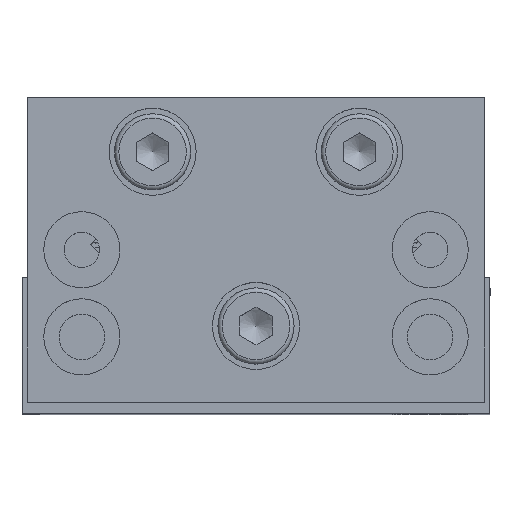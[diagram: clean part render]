
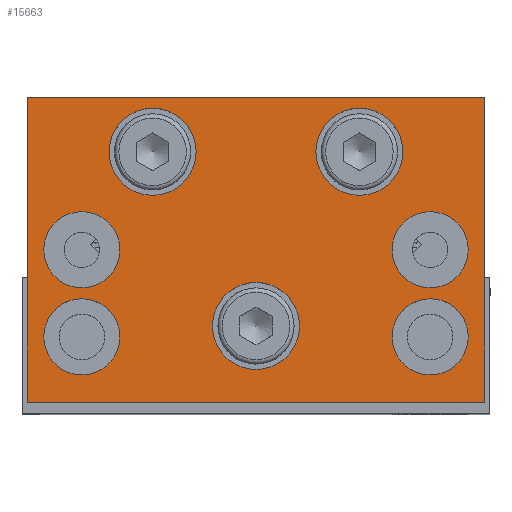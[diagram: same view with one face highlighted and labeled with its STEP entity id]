
A CAD part, top view. The second image highlights one B-rep face of the part: STEP entity #15663.
In plain terms, the highlighted planar face has unit normal (0, 0, 1).
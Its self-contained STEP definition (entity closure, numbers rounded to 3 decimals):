
#936=LINE('',#26491,#1969);
#939=LINE('',#26497,#1972);
#942=LINE('',#26503,#1975);
#945=LINE('',#26507,#1978);
#1969=VECTOR('',#21429,10.);
#1972=VECTOR('',#21434,10.);
#1975=VECTOR('',#21439,10.);
#1978=VECTOR('',#21444,10.);
#2712=PLANE('',#17429);
#3298=FACE_BOUND('',#5954,.T.);
#3299=FACE_BOUND('',#5955,.T.);
#3300=FACE_BOUND('',#5956,.T.);
#3301=FACE_BOUND('',#5957,.T.);
#3302=FACE_BOUND('',#5958,.T.);
#3303=FACE_BOUND('',#5959,.T.);
#3304=FACE_BOUND('',#5960,.T.);
#4499=FACE_OUTER_BOUND('',#5953,.T.);
#5953=EDGE_LOOP('',(#13416,#13417,#13418,#13419));
#5954=EDGE_LOOP('',(#13420));
#5955=EDGE_LOOP('',(#13421));
#5956=EDGE_LOOP('',(#13422));
#5957=EDGE_LOOP('',(#13423));
#5958=EDGE_LOOP('',(#13424));
#5959=EDGE_LOOP('',(#13425));
#5960=EDGE_LOOP('',(#13426));
#6725=CIRCLE('',#17370,3.5);
#6728=CIRCLE('',#17376,3.5);
#6731=CIRCLE('',#17382,3.5);
#6735=CIRCLE('',#17389,3.5);
#6748=CIRCLE('',#17411,4.);
#6751=CIRCLE('',#17417,4.);
#6754=CIRCLE('',#17423,4.);
#8026=VERTEX_POINT('',#26399);
#8029=VERTEX_POINT('',#26408);
#8032=VERTEX_POINT('',#26417);
#8036=VERTEX_POINT('',#26428);
#8049=VERTEX_POINT('',#26463);
#8052=VERTEX_POINT('',#26472);
#8055=VERTEX_POINT('',#26481);
#8058=VERTEX_POINT('',#26488);
#8059=VERTEX_POINT('',#26490);
#8061=VERTEX_POINT('',#26496);
#8063=VERTEX_POINT('',#26502);
#9851=EDGE_CURVE('',#8026,#8026,#6725,.T.);
#9854=EDGE_CURVE('',#8029,#8029,#6728,.T.);
#9857=EDGE_CURVE('',#8032,#8032,#6731,.T.);
#9861=EDGE_CURVE('',#8036,#8036,#6735,.T.);
#9874=EDGE_CURVE('',#8049,#8049,#6748,.T.);
#9877=EDGE_CURVE('',#8052,#8052,#6751,.T.);
#9880=EDGE_CURVE('',#8055,#8055,#6754,.T.);
#9883=EDGE_CURVE('',#8059,#8058,#936,.T.);
#9886=EDGE_CURVE('',#8061,#8059,#939,.T.);
#9889=EDGE_CURVE('',#8063,#8061,#942,.T.);
#9892=EDGE_CURVE('',#8058,#8063,#945,.T.);
#13416=ORIENTED_EDGE('',*,*,#9892,.T.);
#13417=ORIENTED_EDGE('',*,*,#9889,.T.);
#13418=ORIENTED_EDGE('',*,*,#9886,.T.);
#13419=ORIENTED_EDGE('',*,*,#9883,.T.);
#13420=ORIENTED_EDGE('',*,*,#9851,.T.);
#13421=ORIENTED_EDGE('',*,*,#9854,.T.);
#13422=ORIENTED_EDGE('',*,*,#9857,.T.);
#13423=ORIENTED_EDGE('',*,*,#9861,.T.);
#13424=ORIENTED_EDGE('',*,*,#9874,.T.);
#13425=ORIENTED_EDGE('',*,*,#9877,.T.);
#13426=ORIENTED_EDGE('',*,*,#9880,.T.);
#15663=ADVANCED_FACE('',(#4499,#3298,#3299,#3300,#3301,#3302,#3303,#3304),
#2712,.T.);
#17370=AXIS2_PLACEMENT_3D('',#26400,#21315,#21316);
#17376=AXIS2_PLACEMENT_3D('',#26409,#21327,#21328);
#17382=AXIS2_PLACEMENT_3D('',#26418,#21339,#21340);
#17389=AXIS2_PLACEMENT_3D('',#26429,#21353,#21354);
#17411=AXIS2_PLACEMENT_3D('',#26464,#21397,#21398);
#17417=AXIS2_PLACEMENT_3D('',#26473,#21409,#21410);
#17423=AXIS2_PLACEMENT_3D('',#26482,#21421,#21422);
#17429=AXIS2_PLACEMENT_3D('',#26508,#21445,#21446);
#21315=DIRECTION('center_axis',(0.,0.,
-1.));
#21316=DIRECTION('ref_axis',(-1.,0.,0.));
#21327=DIRECTION('center_axis',(0.,0.,
-1.));
#21328=DIRECTION('ref_axis',(-1.,0.,0.));
#21339=DIRECTION('center_axis',(0.,0.,
-1.));
#21340=DIRECTION('ref_axis',(-1.,0.,0.));
#21353=DIRECTION('center_axis',(0.,0.,
-1.));
#21354=DIRECTION('ref_axis',(-1.,0.,0.));
#21397=DIRECTION('center_axis',(0.,0.,
-1.));
#21398=DIRECTION('ref_axis',(-1.,0.,0.));
#21409=DIRECTION('center_axis',(0.,0.,
-1.));
#21410=DIRECTION('ref_axis',(-1.,0.,0.));
#21421=DIRECTION('center_axis',(0.,0.,
-1.));
#21422=DIRECTION('ref_axis',(-1.,0.,0.));
#21429=DIRECTION('',(0.,1.,0.));
#21434=DIRECTION('',(1.,0.,0.));
#21439=DIRECTION('',(0.,-1.,0.));
#21444=DIRECTION('',(-1.,0.,0.));
#21445=DIRECTION('center_axis',(0.,0.,
1.));
#21446=DIRECTION('ref_axis',(-1.,0.,0.));
#26399=CARTESIAN_POINT('',(11.657,15.341,47.));
#26400=CARTESIAN_POINT('Origin',(15.157,15.341,47.));
#26408=CARTESIAN_POINT('',(-20.343,15.341,47.));
#26409=CARTESIAN_POINT('Origin',(-16.843,15.341,47.));
#26417=CARTESIAN_POINT('',(11.657,7.341,47.));
#26418=CARTESIAN_POINT('Origin',(15.157,7.341,47.));
#26428=CARTESIAN_POINT('',(-20.343,7.341,47.));
#26429=CARTESIAN_POINT('Origin',(-16.843,7.341,47.));
#26463=CARTESIAN_POINT('',(-14.343,-1.659,47.));
#26464=CARTESIAN_POINT('Origin',(-10.343,-1.659,47.));
#26472=CARTESIAN_POINT('',(4.657,-1.659,47.));
#26473=CARTESIAN_POINT('Origin',(8.657,-1.659,47.));
#26481=CARTESIAN_POINT('',(-4.843,14.341,47.));
#26482=CARTESIAN_POINT('Origin',(-0.843,14.341,47.));
#26488=CARTESIAN_POINT('',(20.157,21.341,47.));
#26490=CARTESIAN_POINT('',(20.157,-6.659,47.));
#26491=CARTESIAN_POINT('',(20.157,-6.659,47.));
#26496=CARTESIAN_POINT('',(-21.843,-6.659,47.));
#26497=CARTESIAN_POINT('',(-21.843,-6.659,47.));
#26502=CARTESIAN_POINT('',(-21.843,21.341,47.));
#26503=CARTESIAN_POINT('',(-21.843,21.341,47.));
#26507=CARTESIAN_POINT('',(20.157,21.341,47.));
#26508=CARTESIAN_POINT('Origin',(-0.843,7.341,47.));
